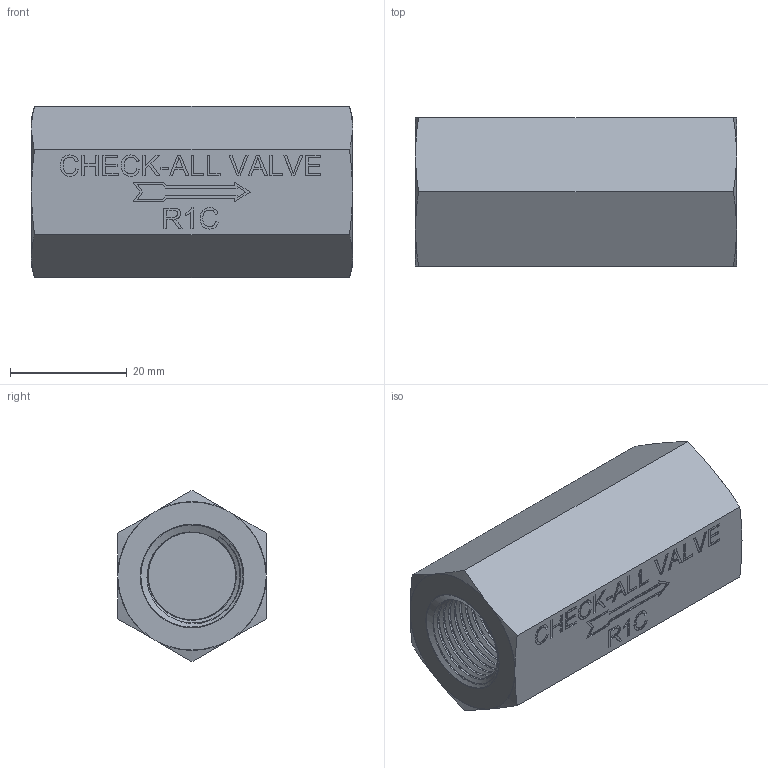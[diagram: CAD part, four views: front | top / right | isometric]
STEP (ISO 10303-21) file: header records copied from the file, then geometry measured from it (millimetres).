
FILE_DESCRIPTION( ( 'Unknown' ), '1' );
FILE_NAME( 'Y:/ENGR/3D Solid Edge Models/R1/stp/R1C.stp', 'Unknown', ( 'Unknown' ), ( 'Unknown' ), 'PSStep 16.0.42', 'Unknown', ' ' );
FILE_SCHEMA( ( 'AUTOMOTIVE_DESIGN { 1 0 10303 214 1 1 1 1 }' ) );
Length unit declared in the file: millimetre
Products named in the file (1): 1
Bounding box: 54.94 x 25.4 x 29.33 mm (x, y, z)
Volume: 26113.1 mm3; surface area: 7846.9 mm2
Topology: 1 solids, 1 shells, 254 faces, 671 edges, 419 vertices
Faces by surface type: extrusion 134, plane 56, bspline 34, cone 14, torus 14, cylinder 2
Entity records: 42630 total; most frequent: CARTESIAN_POINT 35087, ORIENTED_EDGE 1280, DIRECTION 746, EDGE_CURVE 640, VECTOR 460, VERTEX_POINT 416, B_SPLINE_CURVE_WITH_KNOTS 386, LINE 326
